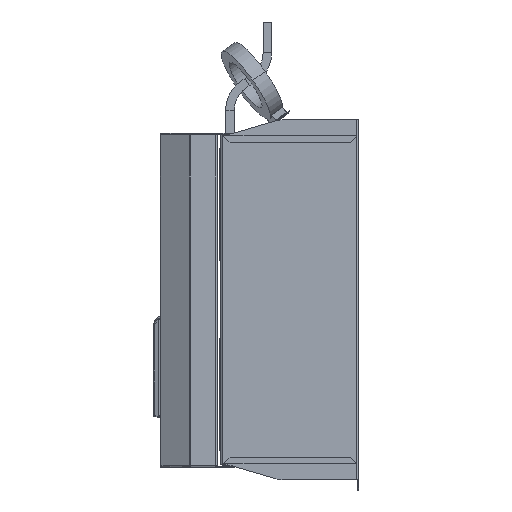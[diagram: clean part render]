
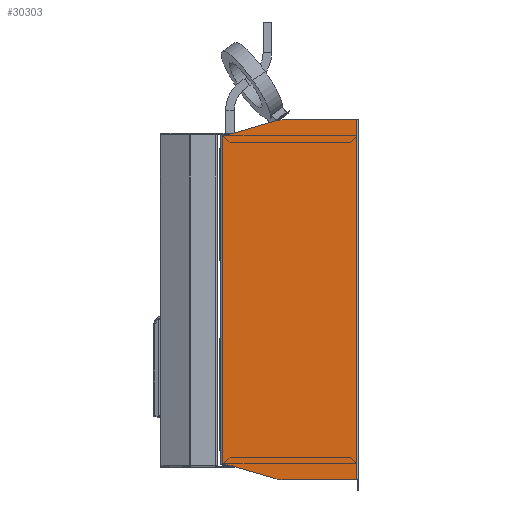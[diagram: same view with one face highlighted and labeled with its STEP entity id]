
A CAD part, left-side view. The second image highlights one B-rep face of the part: STEP entity #30303.
In plain terms, the highlighted planar face has unit normal (-1, 0, 0).
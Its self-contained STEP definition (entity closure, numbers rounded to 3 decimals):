
#5078 = CARTESIAN_POINT ( 'NONE',  ( -215., 200.6, -243. ) ) ;
#5265 = CARTESIAN_POINT ( 'NONE',  ( -215., 200.6, 243. ) ) ;
#5979 = CARTESIAN_POINT ( 'NONE',  ( -215., 197.146, -243. ) ) ;
#10526 = CARTESIAN_POINT ( 'NONE',  ( -215., 197.146, 283. ) ) ;
#10529 = DIRECTION ( 'NONE',  ( -1., 0., 0. ) ) ;
#10531 = DIRECTION ( 'NONE',  ( 0., 0., 1. ) ) ;
#11301 = DIRECTION ( 'NONE',  ( 0., 1., 0. ) ) ;
#11305 = CARTESIAN_POINT ( 'NONE',  ( -215., 0., -243. ) ) ;
#19016 = CIRCLE ( 'NONE', #78520, 40. ) ;
#19307 = LINE ( 'NONE', #11305, #19314 ) ;
#19314 = VECTOR ( 'NONE', #11301, 1000. ) ;
#21906 = LINE ( 'NONE', #141001, #21928 ) ;
#21928 = VECTOR ( 'NONE', #141010, 1000. ) ;
#30303 = ADVANCED_FACE ( 'NONE', ( #41324 ), #163459, .T. ) ;
#40373 = AXIS2_PLACEMENT_3D ( 'NONE', #140357, #140359, #140361 ) ;
#41324 = FACE_OUTER_BOUND ( 'NONE', #124455, .T. ) ;
#48944 = CIRCLE ( 'NONE', #78772, 40. ) ;
#49338 = LINE ( 'NONE', #158329, #49339 ) ;
#49339 = VECTOR ( 'NONE', #158336, 1000. ) ;
#49493 = LINE ( 'NONE', #160188, #49496 ) ;
#49496 = VECTOR ( 'NONE', #160197, 1000. ) ;
#49500 = CIRCLE ( 'NONE', #79108, 40. ) ;
#49541 = LINE ( 'NONE', #160685, #49543 ) ;
#49543 = VECTOR ( 'NONE', #160693, 1000. ) ;
#49607 = LINE ( 'NONE', #161472, #49608 ) ;
#49608 = VECTOR ( 'NONE', #161511, 1000. ) ;
#50034 = LINE ( 'NONE', #193072, #50035 ) ;
#50035 = VECTOR ( 'NONE', #193073, 1000. ) ;
#50364 = LINE ( 'NONE', #140334, #50370 ) ;
#50370 = VECTOR ( 'NONE', #140337, 1000. ) ;
#50375 = CIRCLE ( 'NONE', #40373, 40. ) ;
#64414 = CARTESIAN_POINT ( 'NONE',  ( -215., 110.654, -225. ) ) ;
#64415 = DIRECTION ( 'NONE',  ( -1., 0., 0. ) ) ;
#64416 = DIRECTION ( 'NONE',  ( 0., 0., 1. ) ) ;
#64764 = ORIENTED_EDGE ( 'NONE', *, *, #96774, .F. ) ;
#65107 = ORIENTED_EDGE ( 'NONE', *, *, #97874, .T. ) ;
#65132 = ORIENTED_EDGE ( 'NONE', *, *, #99593, .F. ) ;
#65144 = ORIENTED_EDGE ( 'NONE', *, *, #101211, .F. ) ;
#65208 = ORIENTED_EDGE ( 'NONE', *, *, #102277, .T. ) ;
#65393 = ORIENTED_EDGE ( 'NONE', *, *, #102258, .T. ) ;
#66329 = ORIENTED_EDGE ( 'NONE', *, *, #99882, .T. ) ;
#66466 = ORIENTED_EDGE ( 'NONE', *, *, #99561, .T. ) ;
#66516 = ORIENTED_EDGE ( 'NONE', *, *, #99705, .F. ) ;
#66549 = ORIENTED_EDGE ( 'NONE', *, *, #99062, .F. ) ;
#66641 = ORIENTED_EDGE ( 'NONE', *, *, #102872, .T. ) ;
#67104 = ORIENTED_EDGE ( 'NONE', *, *, #97092, .F. ) ;
#72185 = CARTESIAN_POINT ( 'NONE',  ( -215., 121.913, 263.383 ) ) ;
#73662 = CARTESIAN_POINT ( 'NONE',  ( -215., 121.913, -263.383 ) ) ;
#73968 = CARTESIAN_POINT ( 'NONE',  ( -215., 110.654, -265. ) ) ;
#74527 = CARTESIAN_POINT ( 'NONE',  ( -215., 197.146, 243. ) ) ;
#75412 = CARTESIAN_POINT ( 'NONE',  ( -215., 2.4, -265. ) ) ;
#75479 = CARTESIAN_POINT ( 'NONE',  ( -215., 2.4, 265. ) ) ;
#75601 = CARTESIAN_POINT ( 'NONE',  ( -215., 110.654, 265. ) ) ;
#75717 = CARTESIAN_POINT ( 'NONE',  ( -215., 185.887, -244.617 ) ) ;
#75837 = CARTESIAN_POINT ( 'NONE',  ( -215., 185.887, 244.617 ) ) ;
#78520 = AXIS2_PLACEMENT_3D ( 'NONE', #10526, #10529, #10531 ) ;
#78772 = AXIS2_PLACEMENT_3D ( 'NONE', #64414, #64415, #64416 ) ;
#79108 = AXIS2_PLACEMENT_3D ( 'NONE', #160348, #160352, #160357 ) ;
#86855 = VERTEX_POINT ( 'NONE', #5078 ) ;
#86929 = VERTEX_POINT ( 'NONE', #5265 ) ;
#86992 = VERTEX_POINT ( 'NONE', #73968 ) ;
#87287 = VERTEX_POINT ( 'NONE', #74527 ) ;
#87657 = VERTEX_POINT ( 'NONE', #75412 ) ;
#87688 = VERTEX_POINT ( 'NONE', #75479 ) ;
#87752 = VERTEX_POINT ( 'NONE', #75601 ) ;
#87797 = VERTEX_POINT ( 'NONE', #75717 ) ;
#87860 = VERTEX_POINT ( 'NONE', #75837 ) ;
#88167 = VERTEX_POINT ( 'NONE', #72185 ) ;
#89004 = VERTEX_POINT ( 'NONE', #73662 ) ;
#89324 = VERTEX_POINT ( 'NONE', #5979 ) ;
#94805 = AXIS2_PLACEMENT_3D ( 'NONE', #163051, #163431, #163485 ) ;
#96774 = EDGE_CURVE ( 'NONE', #87287, #87860, #19016, .T. ) ;
#97092 = EDGE_CURVE ( 'NONE', #89324, #86855, #19307, .T. ) ;
#97874 = EDGE_CURVE ( 'NONE', #89004, #86992, #48944, .T. ) ;
#99062 = EDGE_CURVE ( 'NONE', #87860, #88167, #49338, .T. ) ;
#99561 = EDGE_CURVE ( 'NONE', #87797, #89004, #49493, .T. ) ;
#99593 = EDGE_CURVE ( 'NONE', #88167, #87752, #49500, .T. ) ;
#99705 = EDGE_CURVE ( 'NONE', #87752, #87688, #49541, .T. ) ;
#99882 = EDGE_CURVE ( 'NONE', #86929, #86855, #49607, .T. ) ;
#101211 = EDGE_CURVE ( 'NONE', #87688, #87657, #50034, .T. ) ;
#102258 = EDGE_CURVE ( 'NONE', #87287, #86929, #50364, .T. ) ;
#102277 = EDGE_CURVE ( 'NONE', #89324, #87797, #50375, .T. ) ;
#102872 = EDGE_CURVE ( 'NONE', #86992, #87657, #21906, .T. ) ;
#124455 = EDGE_LOOP ( 'NONE', ( #65393, #66329, #67104, #65208, #66466, #65107, #66641, #65144, #66516, #65132, #66549, #64764 ) ) ;
#140334 = CARTESIAN_POINT ( 'NONE',  ( -215., 0., 243. ) ) ;
#140337 = DIRECTION ( 'NONE',  ( 0., 1., 0. ) ) ;
#140357 = CARTESIAN_POINT ( 'NONE',  ( -215., 197.146, -283. ) ) ;
#140359 = DIRECTION ( 'NONE',  ( 1., 0., 0. ) ) ;
#140361 = DIRECTION ( 'NONE',  ( 0., 0., 1. ) ) ;
#141001 = CARTESIAN_POINT ( 'NONE',  ( -215., 1.6, -265. ) ) ;
#141010 = DIRECTION ( 'NONE',  ( 0., -1., 0. ) ) ;
#158329 = CARTESIAN_POINT ( 'NONE',  ( -215., 15.164, 294.696 ) ) ;
#158336 = DIRECTION ( 'NONE',  ( 0., -0.96, 0.281 ) ) ;
#160188 = CARTESIAN_POINT ( 'NONE',  ( -215., 146.429, -256.191 ) ) ;
#160197 = DIRECTION ( 'NONE',  ( 0., -0.96, -0.281 ) ) ;
#160348 = CARTESIAN_POINT ( 'NONE',  ( -215., 110.654, 225. ) ) ;
#160352 = DIRECTION ( 'NONE',  ( 1., 0., 0. ) ) ;
#160357 = DIRECTION ( 'NONE',  ( 0., 0., 1. ) ) ;
#160685 = CARTESIAN_POINT ( 'NONE',  ( -215., 1.6, 265. ) ) ;
#160693 = DIRECTION ( 'NONE',  ( 0., -1., 0. ) ) ;
#161472 = CARTESIAN_POINT ( 'NONE',  ( -215., 200.6, -243. ) ) ;
#161511 = DIRECTION ( 'NONE',  ( 0., 0., -1. ) ) ;
#163051 = CARTESIAN_POINT ( 'NONE',  ( -215., 0., 243. ) ) ;
#163431 = DIRECTION ( 'NONE',  ( -1., 0., 0. ) ) ;
#163459 = PLANE ( 'NONE',  #94805 ) ;
#163485 = DIRECTION ( 'NONE',  ( 0., 0., 1. ) ) ;
#193072 = CARTESIAN_POINT ( 'NONE',  ( -215., 2.4, -265. ) ) ;
#193073 = DIRECTION ( 'NONE',  ( 0., 0., -1. ) ) ;
